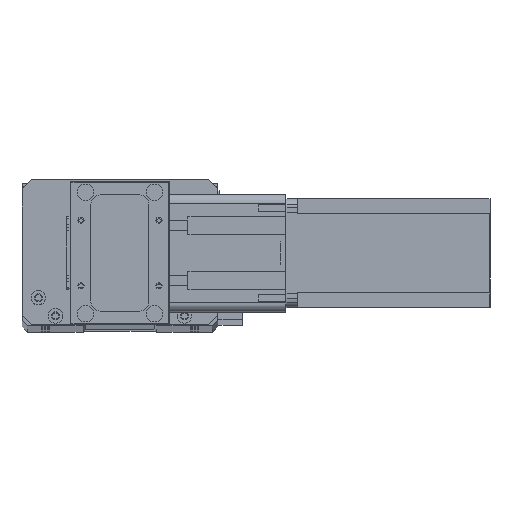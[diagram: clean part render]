
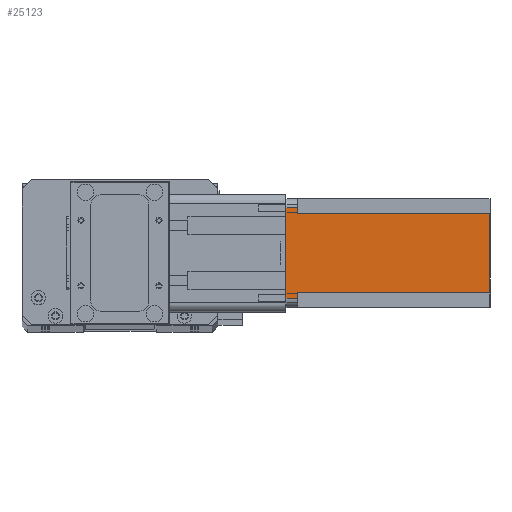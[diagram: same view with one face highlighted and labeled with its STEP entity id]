
A CAD part, top view. The second image highlights one B-rep face of the part: STEP entity #25123.
In plain terms, the highlighted planar face has unit normal (0, 0, 1) as drawn and (0, 1, 0) by its records, which use the part's own axes.
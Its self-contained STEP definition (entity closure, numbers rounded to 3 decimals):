
#25 = DIRECTION ( 'NONE',  ( -1., 0., 0. ) ) ;
#444 = CARTESIAN_POINT ( 'NONE',  ( 8., 60., -112.5 ) ) ;
#936 = DIRECTION ( 'NONE',  ( 0., 0., -1. ) ) ;
#1050 = CARTESIAN_POINT ( 'NONE',  ( 55., 60., -6.5 ) ) ;
#1094 = DIRECTION ( 'NONE',  ( -1., 0., 0. ) ) ;
#1186 = CARTESIAN_POINT ( 'NONE',  ( 8., 60., -6.5 ) ) ;
#1212 = DIRECTION ( 'NONE',  ( 1., 0., 0. ) ) ;
#1320 = EDGE_CURVE ( 'NONE', #17159, #12699, #6989, .T. ) ;
#1839 = DIRECTION ( 'NONE',  ( 0., 0., 1. ) ) ;
#2166 = EDGE_CURVE ( 'NONE', #3751, #11073, #8056, .T. ) ;
#3751 = VERTEX_POINT ( 'NONE', #12793 ) ;
#3816 = LINE ( 'NONE', #11595, #26726 ) ;
#3989 = CARTESIAN_POINT ( 'NONE',  ( 55., 60., 0. ) ) ;
#4315 = CARTESIAN_POINT ( 'NONE',  ( 0., 60., 0. ) ) ;
#4364 = DIRECTION ( 'NONE',  ( 0., 0., -1. ) ) ;
#5902 = VERTEX_POINT ( 'NONE', #16818 ) ;
#6051 = ORIENTED_EDGE ( 'NONE', *, *, #15602, .T. ) ;
#6272 = VECTOR ( 'NONE', #936, 1000. ) ;
#6605 = DIRECTION ( 'NONE',  ( -1., 0., 0. ) ) ;
#6739 = ORIENTED_EDGE ( 'NONE', *, *, #27857, .F. ) ;
#6782 = VECTOR ( 'NONE', #4364, 1000. ) ;
#6831 = CARTESIAN_POINT ( 'NONE',  ( 52., 60., -112.5 ) ) ;
#6989 = LINE ( 'NONE', #444, #6272 ) ;
#6998 = FACE_OUTER_BOUND ( 'NONE', #25608, .T. ) ;
#8056 = LINE ( 'NONE', #29236, #9485 ) ;
#9485 = VECTOR ( 'NONE', #1212, 1000. ) ;
#9584 = ORIENTED_EDGE ( 'NONE', *, *, #1320, .F. ) ;
#10171 = VERTEX_POINT ( 'NONE', #3989 ) ;
#10895 = PLANE ( 'NONE',  #18583 ) ;
#10897 = VERTEX_POINT ( 'NONE', #27259 ) ;
#11073 = VERTEX_POINT ( 'NONE', #1050 ) ;
#11595 = CARTESIAN_POINT ( 'NONE',  ( 0., 60., -112.5 ) ) ;
#11854 = EDGE_CURVE ( 'NONE', #10171, #11073, #19711, .T. ) ;
#12428 = ORIENTED_EDGE ( 'NONE', *, *, #19698, .T. ) ;
#12699 = VERTEX_POINT ( 'NONE', #27919 ) ;
#12793 = CARTESIAN_POINT ( 'NONE',  ( 52., 60., -6.5 ) ) ;
#13222 = CARTESIAN_POINT ( 'NONE',  ( 0., 60., -112.5 ) ) ;
#13644 = DIRECTION ( 'NONE',  ( 0., 0., 1. ) ) ;
#15162 = VECTOR ( 'NONE', #26625, 1000. ) ;
#15535 = DIRECTION ( 'NONE',  ( 0., 1., 0. ) ) ;
#15602 = EDGE_CURVE ( 'NONE', #17159, #16466, #15728, .T. ) ;
#15728 = LINE ( 'NONE', #1186, #21806 ) ;
#16466 = VERTEX_POINT ( 'NONE', #25367 ) ;
#16818 = CARTESIAN_POINT ( 'NONE',  ( 52., 60., -112.5 ) ) ;
#16949 = EDGE_CURVE ( 'NONE', #10171, #10897, #24569, .T. ) ;
#17159 = VERTEX_POINT ( 'NONE', #28350 ) ;
#17527 = CARTESIAN_POINT ( 'NONE',  ( 5., 60., -112.5 ) ) ;
#18091 = CARTESIAN_POINT ( 'NONE',  ( 55., 60., -112.5 ) ) ;
#18502 = VECTOR ( 'NONE', #6605, 1000. ) ;
#18583 = AXIS2_PLACEMENT_3D ( 'NONE', #13222, #15535, #1839 ) ;
#19491 = ORIENTED_EDGE ( 'NONE', *, *, #16949, .F. ) ;
#19698 = EDGE_CURVE ( 'NONE', #16466, #10897, #21253, .T. ) ;
#19711 = LINE ( 'NONE', #18091, #6782 ) ;
#21253 = LINE ( 'NONE', #17527, #15162 ) ;
#21806 = VECTOR ( 'NONE', #1094, 1000. ) ;
#23749 = ORIENTED_EDGE ( 'NONE', *, *, #2166, .F. ) ;
#23873 = EDGE_CURVE ( 'NONE', #5902, #12699, #3816, .T. ) ;
#24569 = LINE ( 'NONE', #4315, #18502 ) ;
#25123 = ADVANCED_FACE ( 'NONE', ( #6998 ), #10895, .T. ) ;
#25367 = CARTESIAN_POINT ( 'NONE',  ( 5., 60., -6.5 ) ) ;
#25608 = EDGE_LOOP ( 'NONE', ( #19491, #25795, #23749, #6739, #26620, #9584, #6051, #12428 ) ) ;
#25795 = ORIENTED_EDGE ( 'NONE', *, *, #11854, .T. ) ;
#26620 = ORIENTED_EDGE ( 'NONE', *, *, #23873, .T. ) ;
#26625 = DIRECTION ( 'NONE',  ( 0., 0., 1. ) ) ;
#26726 = VECTOR ( 'NONE', #25, 1000. ) ;
#26903 = VECTOR ( 'NONE', #13644, 1000. ) ;
#27259 = CARTESIAN_POINT ( 'NONE',  ( 5., 60., 0. ) ) ;
#27857 = EDGE_CURVE ( 'NONE', #5902, #3751, #28321, .T. ) ;
#27919 = CARTESIAN_POINT ( 'NONE',  ( 8., 60., -112.5 ) ) ;
#28321 = LINE ( 'NONE', #6831, #26903 ) ;
#28350 = CARTESIAN_POINT ( 'NONE',  ( 8., 60., -6.5 ) ) ;
#29236 = CARTESIAN_POINT ( 'NONE',  ( 52., 60., -6.5 ) ) ;
